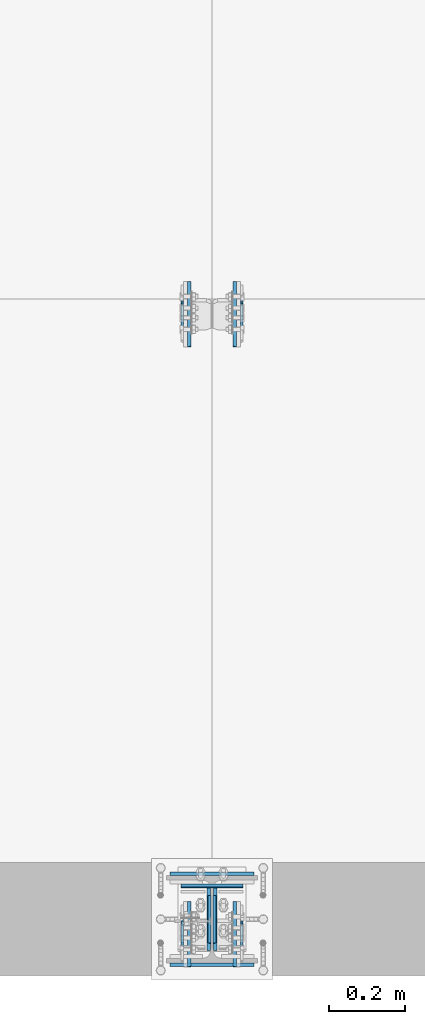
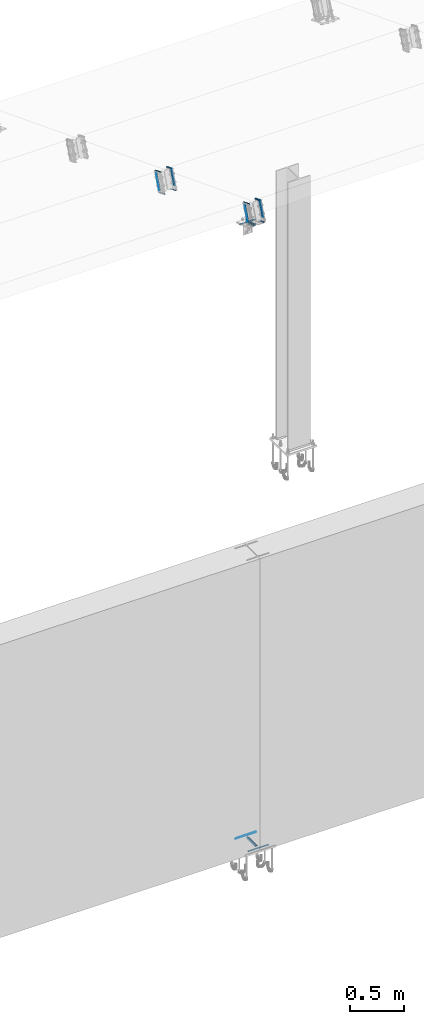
# One storey, part 11 of 72: 38 fasteners.
"""IFC4 building model written with IfcOpenShell, lengths in metres."""

from ifc_helpers import new_model, si_unit, frame, origin_with_axes, place, context, project, spatial, polyline, outline, extrude, type_object, element, save


model = new_model("IFC4")

# Units and contexts
model_context = context("Model", 3, precision=1e-05, world=origin_with_axes())
ifc_project = project(units=[si_unit("LENGTHUNIT", "METRE"), si_unit("AREAUNIT", "SQUARE_METRE"), si_unit("VOLUMEUNIT", "CUBIC_METRE"), si_unit("MASSUNIT", "GRAM", prefix="KILO"), si_unit("TIMEUNIT", "SECOND"), si_unit("PLANEANGLEUNIT", "RADIAN"), si_unit("SOLIDANGLEUNIT", "STERADIAN"), si_unit("THERMODYNAMICTEMPERATUREUNIT", "DEGREE_CELSIUS")], contexts=[model_context])

# Site, building, storey
placement_1 = place(None, origin_with_axes())
site = spatial("IfcSite", under=ifc_project, at=placement_1, Name="Italia", CompositionType="ELEMENT")
building = spatial("IfcBuilding", under=site, at=placement_1, Name="Uffici", CompositionType="ELEMENT")
storey = spatial("IfcBuildingStorey", under=building, at=placement_1, Name="Storey 0", CompositionType="ELEMENT", Elevation=0.0)

# Fasteners
fastener_type_1 = type_object("IfcFastenerType", Name="Collegamento -027_-026", PredefinedType="WELD")
placement_2 = place(placement_1, origin_with_axes())
fastener_1_placement = place(placement_2, origin_with_axes())
element("IfcFastener", 1, at=fastener_1_placement, inside=storey, type_object=fastener_type_1, Name="Collegamento -027_-026", context=model_context, shape_type="SweptSolid", body=[
    extrude(outline(polyline([(0.0, 0.0), (-0.00717354, 0.00695848), (0.0, 0.00695848), (0.0, 0.0)])), frame((3.13005, 1.63499, 6.58409), z_axis=(0.0, -0.361462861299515, -0.932386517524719), x_axis=(1.0, 0.0, 0.0)), (0.0, 0.0, 1.0), 0.1591),
])
fastener_type_2 = type_object("IfcFastenerType", Name="Collegamento -027_-026", PredefinedType="WELD")
fastener_2_placement = place(placement_2, origin_with_axes())
element("IfcFastener", 2, at=fastener_2_placement, inside=storey, type_object=fastener_type_2, Name="Collegamento -027_-026", context=model_context, shape_type="SweptSolid", body=[
    extrude(outline(polyline([(0.0, 0.0), (0.00717354, -0.00695837), (0.0, -0.00695837), (0.0, 0.0)])), frame((3.13005, 1.55938, 6.44277), z_axis=(0.0, 0.36146154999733, 0.932386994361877), x_axis=(-1.0, 0.0, 0.0)), (0.0, 0.0, 1.0), 0.1591),
])
fastener_type_3 = type_object("IfcFastenerType", Name="Collegamento -027_-026", PredefinedType="WELD")
fastener_3_placement = place(placement_2, origin_with_axes())
element("IfcFastener", 3, at=fastener_3_placement, inside=storey, type_object=fastener_type_3, Name="Collegamento -027_-026", context=model_context, shape_type="SweptSolid", body=[
    extrude(outline(polyline([(0.0, 0.0), (-0.00717354, 0.00695848), (0.0, 0.00695848), (0.0, 0.0)])), frame((3.13005, 1.63499, 6.58409), z_axis=(0.0, -0.361462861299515, -0.932386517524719), x_axis=(1.0, 0.0, 0.0)), (0.0, 0.0, 1.0), 0.1591),
])
fastener_type_4 = type_object("IfcFastenerType", Name="Collegamento -027_-026", PredefinedType="WELD")
fastener_4_placement = place(placement_2, origin_with_axes())
element("IfcFastener", 4, at=fastener_4_placement, inside=storey, type_object=fastener_type_4, Name="Collegamento -027_-026", context=model_context, shape_type="SweptSolid", body=[
    extrude(outline(polyline([(0.0, 0.0), (0.00717354, -0.00695837), (0.0, -0.00695837), (0.0, 0.0)])), frame((3.13005, 1.55938, 6.44277), z_axis=(0.0, 0.36146154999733, 0.932386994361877), x_axis=(-1.0, 0.0, 0.0)), (0.0, 0.0, 1.0), 0.1591),
])
fastener_type_5 = type_object("IfcFastenerType", Name="Collegamento -027_-026", PredefinedType="WELD")
fastener_5_placement = place(placement_2, origin_with_axes())
element("IfcFastener", 5, at=fastener_5_placement, inside=storey, type_object=fastener_type_5, Name="Collegamento -027_-026", context=model_context, shape_type="SweptSolid", body=[
    extrude(outline(polyline([(0.0, 0.0), (0.00937343, -0.00909233), (0.0, -0.00909233), (0.0, 0.0)])), frame((3.15005, 1.51041, 6.42806), z_axis=(0.0, 0.932386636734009, -0.361462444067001), x_axis=(-1.0, 0.0, 0.0)), (0.0, 0.0, 1.0), 0.1001),
])
fastener_type_6 = type_object("IfcFastenerType", Name="Collegamento -027_-026", PredefinedType="WELD")
fastener_6_placement = place(placement_2, origin_with_axes())
element("IfcFastener", 6, at=fastener_6_placement, inside=storey, type_object=fastener_type_6, Name="Collegamento -027_-026", context=model_context, shape_type="SweptSolid", body=[
    extrude(outline(polyline([(0.0, 0.0), (-0.00937343, 0.00909185), (0.0, 0.00909185), (0.0, 0.0)])), frame((3.15005, 1.67673, 6.58014), z_axis=(0.0, -0.932386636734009, 0.361462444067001), x_axis=(1.0, 0.0, 0.0)), (0.0, 0.0, 1.0), 0.1001),
])
fastener_type_7 = type_object("IfcFastenerType", Name="Collegamento -027_-028", PredefinedType="WELD")
fastener_7_placement = place(placement_2, origin_with_axes())
element("IfcFastener", 7, at=fastener_7_placement, inside=storey, type_object=fastener_type_7, Name="Collegamento -027_-028", context=model_context, shape_type="SweptSolid", body=[
    extrude(outline(polyline([(0.0, 0.0), (-0.00717354, 0.00695825), (0.0, 0.00695825), (0.0, 0.0)])), frame((3.27995, 1.57748, 6.43575), z_axis=(0.0, 0.361462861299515, 0.932386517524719), x_axis=(-1.0, 0.0, 0.0)), (0.0, 0.0, 1.0), 0.1591),
])
fastener_type_8 = type_object("IfcFastenerType", Name="Collegamento -027_-028", PredefinedType="WELD")
fastener_8_placement = place(placement_2, origin_with_axes())
element("IfcFastener", 8, at=fastener_8_placement, inside=storey, type_object=fastener_type_8, Name="Collegamento -027_-028", context=model_context, shape_type="SweptSolid", body=[
    extrude(outline(polyline([(0.0, 0.0), (0.00717354, -0.00695813), (0.0, -0.00695813), (0.0, 0.0)])), frame((3.27995, 1.61689, 6.59111), z_axis=(0.0, -0.36146154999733, -0.932386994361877), x_axis=(1.0, 0.0, 0.0)), (0.0, 0.0, 1.0), 0.1591),
])
fastener_type_9 = type_object("IfcFastenerType", Name="Collegamento -027_-028", PredefinedType="WELD")
fastener_9_placement = place(placement_2, origin_with_axes())
element("IfcFastener", 9, at=fastener_9_placement, inside=storey, type_object=fastener_type_9, Name="Collegamento -027_-028", context=model_context, shape_type="SweptSolid", body=[
    extrude(outline(polyline([(0.0, 0.0), (-0.00717354, 0.00695825), (0.0, 0.00695825), (0.0, 0.0)])), frame((3.27995, 1.57748, 6.43575), z_axis=(0.0, 0.361462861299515, 0.932386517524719), x_axis=(-1.0, 0.0, 0.0)), (0.0, 0.0, 1.0), 0.1591),
])
fastener_type_10 = type_object("IfcFastenerType", Name="Collegamento -027_-028", PredefinedType="WELD")
fastener_10_placement = place(placement_2, origin_with_axes())
element("IfcFastener", 10, at=fastener_10_placement, inside=storey, type_object=fastener_type_10, Name="Collegamento -027_-028", context=model_context, shape_type="SweptSolid", body=[
    extrude(outline(polyline([(0.0, 0.0), (0.00717354, -0.00695813), (0.0, -0.00695813), (0.0, 0.0)])), frame((3.27995, 1.61689, 6.59111), z_axis=(0.0, -0.36146154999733, -0.932386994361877), x_axis=(1.0, 0.0, 0.0)), (0.0, 0.0, 1.0), 0.1591),
])
fastener_type_11 = type_object("IfcFastenerType", Name="Collegamento -027_-028", PredefinedType="WELD")
fastener_11_placement = place(placement_2, origin_with_axes())
element("IfcFastener", 11, at=fastener_11_placement, inside=storey, type_object=fastener_type_11, Name="Collegamento -027_-028", context=model_context, shape_type="SweptSolid", body=[
    extrude(outline(polyline([(0.0, 0.0), (0.00937343, -0.00909233), (0.0, -0.00909233), (0.0, 0.0)])), frame((3.25995, 1.60375, 6.39188), z_axis=(0.0, -0.932386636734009, 0.361462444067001), x_axis=(1.0, 0.0, 0.0)), (0.0, 0.0, 1.0), 0.1001),
])
fastener_type_12 = type_object("IfcFastenerType", Name="Collegamento -027_-028", PredefinedType="WELD")
fastener_12_placement = place(placement_2, origin_with_axes())
element("IfcFastener", 12, at=fastener_12_placement, inside=storey, type_object=fastener_type_12, Name="Collegamento -027_-028", context=model_context, shape_type="SweptSolid", body=[
    extrude(outline(polyline([(0.0, 0.0), (-0.00937343, 0.00909233), (0.0, 0.00909233), (0.0, 0.0)])), frame((3.25995, 1.5834, 6.61633), z_axis=(0.0, 0.932386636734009, -0.361462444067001), x_axis=(-1.0, 0.0, 0.0)), (0.0, 0.0, 1.0), 0.1001),
])
fastener_type_13 = type_object("IfcFastenerType", Name="Collegamenti 0001_0101 0002_0102 0003_0103 0004_0104 0005_0105 0011_0111 0012_0112 0013_0113 0014_0114 0015_0115", PredefinedType="WELD")
fastener_13_placement = place(placement_2, origin_with_axes())
element("IfcFastener", 13, at=fastener_13_placement, inside=storey, type_object=fastener_type_13, Name="Collegamenti 0001_0101 0002_0102 0003_0103 0004_0104 0005_0105 0011_0111 0012_0112 0013_0113 0014_0114 0015_0115", context=model_context, shape_type="SweptSolid", body=[
    extrude(outline(polyline([(0.0, 0.0), (0.00986816, 0.0101734), (0.00986816, 0.0), (0.0, 0.0)])), frame((3.31505, 0.124818, 0.01995), z_axis=(-1.0, 6.7701798e-08, 0.0), x_axis=(-6.7701798e-08, -1.0, 0.0)), (0.0, 0.0, 1.0), 0.2201),
])
fastener_type_14 = type_object("IfcFastenerType", Name="Collegamenti 0001_0101 0002_0102 0003_0103 0004_0104 0005_0105 0011_0111 0012_0112 0013_0113 0014_0114 0015_0115", PredefinedType="WELD")
fastener_14_placement = place(placement_2, origin_with_axes())
element("IfcFastener", 14, at=fastener_14_placement, inside=storey, type_object=fastener_type_14, Name="Collegamenti 0001_0101 0002_0102 0003_0103 0004_0104 0005_0105 0011_0111 0012_0112 0013_0113 0014_0114 0015_0115", context=model_context, shape_type="SweptSolid", body=[
    extrude(outline(polyline([(0.0, 0.0), (0.00986816, 0.0101734), (0.00986816, 0.0), (0.0, 0.0)])), frame((3.09495, -0.124818, 0.01995), z_axis=(1.0, -6.7701798e-08, 0.0), x_axis=(6.7701798e-08, 1.0, 0.0)), (0.0, 0.0, 1.0), 0.2201),
])
fastener_type_15 = type_object("IfcFastenerType", Name="Collegamenti 0001_0101 0002_0102 0003_0103 0004_0104 0005_0105 0011_0111 0012_0112 0013_0113 0014_0114 0015_0115", PredefinedType="WELD")
fastener_15_placement = place(placement_2, origin_with_axes())
element("IfcFastener", 15, at=fastener_15_placement, inside=storey, type_object=fastener_type_15, Name="Collegamenti 0001_0101 0002_0102 0003_0103 0004_0104 0005_0105 0011_0111 0012_0112 0013_0113 0014_0114 0015_0115", context=model_context, shape_type="SweptSolid", body=[
    extrude(outline(polyline([(0.0, 0.0), (0.00986814, 0.0101734), (0.00986814, 0.0), (0.0, 0.0)])), frame((3.21857, -0.08205, 0.01995), z_axis=(0.0, 1.0, 0.0), x_axis=(-1.0, 0.0, 0.0)), (0.0, 0.0, 1.0), 0.1641),
])
fastener_type_16 = type_object("IfcFastenerType", Name="Collegamenti 0001_0101 0002_0102 0003_0103 0004_0104 0005_0105 0011_0111 0012_0112 0013_0113 0014_0114 0015_0115", PredefinedType="WELD")
fastener_16_placement = place(placement_2, origin_with_axes())
element("IfcFastener", 16, at=fastener_16_placement, inside=storey, type_object=fastener_type_16, Name="Collegamenti 0001_0101 0002_0102 0003_0103 0004_0104 0005_0105 0011_0111 0012_0112 0013_0113 0014_0114 0015_0115", context=model_context, shape_type="SweptSolid", body=[
    extrude(outline(polyline([(0.0, 0.0), (0.00986814, 0.0101734), (0.00986814, 0.0), (0.0, 0.0)])), frame((3.19143, 0.08205, 0.01995), z_axis=(0.0, -1.0, 0.0), x_axis=(1.0, 0.0, 0.0)), (0.0, 0.0, 1.0), 0.1641),
])
fastener_type_17 = type_object("IfcFastenerType", Name="Collegamenti 0001_0101 0002_0102 0003_0103 0004_0104 0005_0105 0011_0111 0012_0112 0013_0113 0014_0114 0015_0115", PredefinedType="WELD")
fastener_17_placement = place(placement_2, origin_with_axes())
element("IfcFastener", 17, at=fastener_17_placement, inside=storey, type_object=fastener_type_17, Name="Collegamenti 0001_0101 0002_0102 0003_0103 0004_0104 0005_0105 0011_0111 0012_0112 0013_0113 0014_0114 0015_0115", context=model_context, shape_type="SweptSolid", body=[
    extrude(outline(polyline([(0.0, 0.0), (0.00986816, 0.0101734), (0.00986816, 0.0), (0.0, 0.0)])), frame((3.31505, 0.124818, 0.01995), z_axis=(-1.0, 6.7701798e-08, 0.0), x_axis=(-6.7701798e-08, -1.0, 0.0)), (0.0, 0.0, 1.0), 0.2201),
])
fastener_type_18 = type_object("IfcFastenerType", Name="Collegamenti 0001_0101 0002_0102 0003_0103 0004_0104 0005_0105 0011_0111 0012_0112 0013_0113 0014_0114 0015_0115", PredefinedType="WELD")
fastener_18_placement = place(placement_2, origin_with_axes())
element("IfcFastener", 18, at=fastener_18_placement, inside=storey, type_object=fastener_type_18, Name="Collegamenti 0001_0101 0002_0102 0003_0103 0004_0104 0005_0105 0011_0111 0012_0112 0013_0113 0014_0114 0015_0115", context=model_context, shape_type="SweptSolid", body=[
    extrude(outline(polyline([(0.0, 0.0), (0.00986816, 0.0101734), (0.00986816, 0.0), (0.0, 0.0)])), frame((3.09495, -0.124818, 0.01995), z_axis=(1.0, -6.7701798e-08, 0.0), x_axis=(6.7701798e-08, 1.0, 0.0)), (0.0, 0.0, 1.0), 0.2201),
])
fastener_type_19 = type_object("IfcFastenerType", Name="Collegamenti 0001_0101 0002_0102 0003_0103 0004_0104 0005_0105 0011_0111 0012_0112 0013_0113 0014_0114 0015_0115", PredefinedType="WELD")
fastener_19_placement = place(placement_2, origin_with_axes())
element("IfcFastener", 19, at=fastener_19_placement, inside=storey, type_object=fastener_type_19, Name="Collegamenti 0001_0101 0002_0102 0003_0103 0004_0104 0005_0105 0011_0111 0012_0112 0013_0113 0014_0114 0015_0115", context=model_context, shape_type="SweptSolid", body=[
    extrude(outline(polyline([(0.0, 0.0), (0.00986814, 0.0101734), (0.00986814, 0.0), (0.0, 0.0)])), frame((3.21857, -0.08205, 0.01995), z_axis=(0.0, 1.0, 0.0), x_axis=(-1.0, 0.0, 0.0)), (0.0, 0.0, 1.0), 0.1641),
])
fastener_type_20 = type_object("IfcFastenerType", Name="Collegamenti 0001_0101 0002_0102 0003_0103 0004_0104 0005_0105 0011_0111 0012_0112 0013_0113 0014_0114 0015_0115", PredefinedType="WELD")
fastener_20_placement = place(placement_2, origin_with_axes())
element("IfcFastener", 20, at=fastener_20_placement, inside=storey, type_object=fastener_type_20, Name="Collegamenti 0001_0101 0002_0102 0003_0103 0004_0104 0005_0105 0011_0111 0012_0112 0013_0113 0014_0114 0015_0115", context=model_context, shape_type="SweptSolid", body=[
    extrude(outline(polyline([(0.0, 0.0), (0.00986814, 0.0101734), (0.00986814, 0.0), (0.0, 0.0)])), frame((3.19143, 0.08205, 0.01995), z_axis=(0.0, -1.0, 0.0), x_axis=(1.0, 0.0, 0.0)), (0.0, 0.0, 1.0), 0.1641),
])
fastener_type_21 = type_object("IfcFastenerType", Name="Collegamento 0202_0102", PredefinedType="WELD")
fastener_21_placement = place(placement_2, origin_with_axes())
element("IfcFastener", 21, at=fastener_21_placement, inside=storey, type_object=fastener_type_21, Name="Collegamento 0202_0102", context=model_context, shape_type="SweptSolid", body=[
    extrude(outline(polyline([(0.0, 0.0), (-0.0103468, -0.00475407), (-0.00739191, 0.00286627), (0.0, 0.0)])), frame((3.12295, 0.0928635, 6.952), z_axis=(1.0, 0.0, 0.0), x_axis=(0.0, 1.0, 0.0)), (0.0, 0.0, 1.0), 0.1641),
])
fastener_type_22 = type_object("IfcFastenerType", Name="Collegamento 0202_0102", PredefinedType="WELD")
fastener_22_placement = place(placement_2, origin_with_axes())
element("IfcFastener", 22, at=fastener_22_placement, inside=storey, type_object=fastener_type_22, Name="Collegamento 0202_0102", context=model_context, shape_type="SweptSolid", body=[
    extrude(outline(polyline([(0.0, 0.0), (-0.00792813, -0.00817299), (-0.00792813, 0.0), (0.0, 0.0)])), frame((3.21588, 0.0620793, 6.96393), z_axis=(0.0, -0.932361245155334, 0.361528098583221), x_axis=(1.0, 0.0, 0.0)), (0.0, 0.0, 1.0), 0.133127),
])
fastener_type_23 = type_object("IfcFastenerType", Name="Collegamento 0202_0102", PredefinedType="WELD")
fastener_23_placement = place(placement_2, origin_with_axes())
element("IfcFastener", 23, at=fastener_23_placement, inside=storey, type_object=fastener_type_23, Name="Collegamento 0202_0102", context=model_context, shape_type="SweptSolid", body=[
    extrude(outline(polyline([(0.0, 0.0), (-0.00792813, -0.00817299), (-0.00792813, 0.0), (0.0, 0.0)])), frame((3.19412, -0.062043, 7.01206), z_axis=(0.0, 0.932361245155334, -0.361528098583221), x_axis=(-1.0, 0.0, 0.0)), (0.0, 0.0, 1.0), 0.133127),
])
fastener_type_24 = type_object("IfcFastenerType", Name="Collegamento 0202_0102", PredefinedType="WELD")
fastener_24_placement = place(placement_2, origin_with_axes())
element("IfcFastener", 24, at=fastener_24_placement, inside=storey, type_object=fastener_type_24, Name="Collegamento 0202_0102", context=model_context, shape_type="SweptSolid", body=[
    extrude(outline(polyline([(0.0, 0.0), (-0.0103468, -0.00475407), (-0.00739191, 0.00286627), (0.0, 0.0)])), frame((3.12295, 0.0928635, 6.952), z_axis=(1.0, 0.0, 0.0), x_axis=(0.0, 1.0, 0.0)), (0.0, 0.0, 1.0), 0.1641),
])
fastener_type_25 = type_object("IfcFastenerType", Name="Collegamento 0202_0102", PredefinedType="WELD")
fastener_25_placement = place(placement_2, origin_with_axes())
element("IfcFastener", 25, at=fastener_25_placement, inside=storey, type_object=fastener_type_25, Name="Collegamento 0202_0102", context=model_context, shape_type="SweptSolid", body=[
    extrude(outline(polyline([(0.0, 0.0), (-0.00792813, -0.00817299), (-0.00792813, 0.0), (0.0, 0.0)])), frame((3.21588, 0.0620793, 6.96393), z_axis=(0.0, -0.932361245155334, 0.361528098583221), x_axis=(1.0, 0.0, 0.0)), (0.0, 0.0, 1.0), 0.133127),
])
fastener_type_26 = type_object("IfcFastenerType", Name="Collegamento 0202_0102", PredefinedType="WELD")
fastener_26_placement = place(placement_2, origin_with_axes())
element("IfcFastener", 26, at=fastener_26_placement, inside=storey, type_object=fastener_type_26, Name="Collegamento 0202_0102", context=model_context, shape_type="SweptSolid", body=[
    extrude(outline(polyline([(0.0, 0.0), (-0.00792813, -0.00817299), (-0.00792813, 0.0), (0.0, 0.0)])), frame((3.19412, -0.062043, 7.01206), z_axis=(0.0, 0.932361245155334, -0.361528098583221), x_axis=(-1.0, 0.0, 0.0)), (0.0, 0.0, 1.0), 0.133127),
])
fastener_type_27 = type_object("IfcFastenerType", Name="Collegamento 0202_0201", PredefinedType="WELD")
fastener_27_placement = place(placement_2, origin_with_axes())
element("IfcFastener", 27, at=fastener_27_placement, inside=storey, type_object=fastener_type_27, Name="Collegamento 0202_0201", context=model_context, shape_type="SweptSolid", body=[
    extrude(outline(polyline([(0.0, 0.0), (-0.00717354, 0.00695801), (0.0, 0.00695801), (0.0, 0.0)])), frame((3.13005, 0.00165956, 7.21742), z_axis=(0.0, -0.361462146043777, -0.932386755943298), x_axis=(1.0, 0.0, 0.0)), (0.0, 0.0, 1.0), 0.1591),
])
fastener_type_28 = type_object("IfcFastenerType", Name="Collegamento 0202_0201", PredefinedType="WELD")
fastener_28_placement = place(placement_2, origin_with_axes())
element("IfcFastener", 28, at=fastener_28_placement, inside=storey, type_object=fastener_type_28, Name="Collegamento 0202_0201", context=model_context, shape_type="SweptSolid", body=[
    extrude(outline(polyline([(0.0, 0.0), (0.00717354, -0.00695825), (0.0, -0.00695825), (0.0, 0.0)])), frame((3.13005, -0.0739523, 7.0761), z_axis=(0.0, 0.36146005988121, 0.932387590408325), x_axis=(-1.0, 0.0, 0.0)), (0.0, 0.0, 1.0), 0.1591),
])
fastener_type_29 = type_object("IfcFastenerType", Name="Collegamento 0202_0201", PredefinedType="WELD")
fastener_29_placement = place(placement_2, origin_with_axes())
element("IfcFastener", 29, at=fastener_29_placement, inside=storey, type_object=fastener_type_29, Name="Collegamento 0202_0201", context=model_context, shape_type="SweptSolid", body=[
    extrude(outline(polyline([(0.0, 0.0), (-0.00717354, 0.00695801), (0.0, 0.00695801), (0.0, 0.0)])), frame((3.13005, 0.00165956, 7.21742), z_axis=(0.0, -0.361462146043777, -0.932386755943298), x_axis=(1.0, 0.0, 0.0)), (0.0, 0.0, 1.0), 0.1591),
])
fastener_type_30 = type_object("IfcFastenerType", Name="Collegamento 0202_0201", PredefinedType="WELD")
fastener_30_placement = place(placement_2, origin_with_axes())
element("IfcFastener", 30, at=fastener_30_placement, inside=storey, type_object=fastener_type_30, Name="Collegamento 0202_0201", context=model_context, shape_type="SweptSolid", body=[
    extrude(outline(polyline([(0.0, 0.0), (0.00717354, -0.00695825), (0.0, -0.00695825), (0.0, 0.0)])), frame((3.13005, -0.0739523, 7.0761), z_axis=(0.0, 0.36146005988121, 0.932387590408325), x_axis=(-1.0, 0.0, 0.0)), (0.0, 0.0, 1.0), 0.1591),
])
fastener_type_31 = type_object("IfcFastenerType", Name="Collegamento 0202_0201", PredefinedType="WELD")
fastener_31_placement = place(placement_2, origin_with_axes())
element("IfcFastener", 31, at=fastener_31_placement, inside=storey, type_object=fastener_type_31, Name="Collegamento 0202_0201", context=model_context, shape_type="SweptSolid", body=[
    extrude(outline(polyline([(0.0, 0.0), (0.00937343, -0.00909233), (0.0, -0.00909233), (0.0, 0.0)])), frame((3.15005, -0.122918, 7.0614), z_axis=(0.0, 0.932386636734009, -0.361462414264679), x_axis=(-1.0, 0.0, 0.0)), (0.0, 0.0, 1.0), 0.1001),
])
fastener_type_32 = type_object("IfcFastenerType", Name="Collegamento 0202_0201", PredefinedType="WELD")
fastener_32_placement = place(placement_2, origin_with_axes())
element("IfcFastener", 32, at=fastener_32_placement, inside=storey, type_object=fastener_type_32, Name="Collegamento 0202_0201", context=model_context, shape_type="SweptSolid", body=[
    extrude(outline(polyline([(0.0, 0.0), (-0.00937343, 0.00909233), (0.0, 0.00909233), (0.0, 0.0)])), frame((3.15005, 0.0433989, 7.21348), z_axis=(0.0, -0.932386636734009, 0.361462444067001), x_axis=(1.0, 0.0, 0.0)), (0.0, 0.0, 1.0), 0.1001),
])
fastener_type_33 = type_object("IfcFastenerType", Name="Collegamento 0202_0203", PredefinedType="WELD")
fastener_33_placement = place(placement_2, origin_with_axes())
element("IfcFastener", 33, at=fastener_33_placement, inside=storey, type_object=fastener_type_33, Name="Collegamento 0202_0203", context=model_context, shape_type="SweptSolid", body=[
    extrude(outline(polyline([(0.0, 0.0), (-0.00717354, 0.00695801), (0.0, 0.00695801), (0.0, 0.0)])), frame((3.27995, -0.055849, 7.06908), z_axis=(0.0, 0.3614621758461, 0.932386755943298), x_axis=(-1.0, 0.0, 0.0)), (0.0, 0.0, 1.0), 0.1591),
])
fastener_type_34 = type_object("IfcFastenerType", Name="Collegamento 0202_0203", PredefinedType="WELD")
fastener_34_placement = place(placement_2, origin_with_axes())
element("IfcFastener", 34, at=fastener_34_placement, inside=storey, type_object=fastener_type_34, Name="Collegamento 0202_0203", context=model_context, shape_type="SweptSolid", body=[
    extrude(outline(polyline([(0.0, 0.0), (0.00717354, -0.00695825), (0.0, -0.00695825), (0.0, 0.0)])), frame((3.27995, -0.0164439, 7.22444), z_axis=(0.0, -0.361460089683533, -0.932387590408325), x_axis=(1.0, 0.0, 0.0)), (0.0, 0.0, 1.0), 0.1591),
])
fastener_type_35 = type_object("IfcFastenerType", Name="Collegamento 0202_0203", PredefinedType="WELD")
fastener_35_placement = place(placement_2, origin_with_axes())
element("IfcFastener", 35, at=fastener_35_placement, inside=storey, type_object=fastener_type_35, Name="Collegamento 0202_0203", context=model_context, shape_type="SweptSolid", body=[
    extrude(outline(polyline([(0.0, 0.0), (-0.00717354, 0.00695801), (0.0, 0.00695801), (0.0, 0.0)])), frame((3.27995, -0.055849, 7.06908), z_axis=(0.0, 0.3614621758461, 0.932386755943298), x_axis=(-1.0, 0.0, 0.0)), (0.0, 0.0, 1.0), 0.1591),
])
fastener_type_36 = type_object("IfcFastenerType", Name="Collegamento 0202_0203", PredefinedType="WELD")
fastener_36_placement = place(placement_2, origin_with_axes())
element("IfcFastener", 36, at=fastener_36_placement, inside=storey, type_object=fastener_type_36, Name="Collegamento 0202_0203", context=model_context, shape_type="SweptSolid", body=[
    extrude(outline(polyline([(0.0, 0.0), (0.00717354, -0.00695825), (0.0, -0.00695825), (0.0, 0.0)])), frame((3.27995, -0.0164439, 7.22444), z_axis=(0.0, -0.361460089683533, -0.932387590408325), x_axis=(1.0, 0.0, 0.0)), (0.0, 0.0, 1.0), 0.1591),
])
fastener_type_37 = type_object("IfcFastenerType", Name="Collegamento 0202_0203", PredefinedType="WELD")
fastener_37_placement = place(placement_2, origin_with_axes())
element("IfcFastener", 37, at=fastener_37_placement, inside=storey, type_object=fastener_type_37, Name="Collegamento 0202_0203", context=model_context, shape_type="SweptSolid", body=[
    extrude(outline(polyline([(0.0, 0.0), (0.00937343, -0.00909233), (0.0, -0.00909233), (0.0, 0.0)])), frame((3.25995, -0.0295861, 7.02522), z_axis=(0.0, -0.932386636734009, 0.361462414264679), x_axis=(1.0, 0.0, 0.0)), (0.0, 0.0, 1.0), 0.1001),
])
fastener_type_38 = type_object("IfcFastenerType", Name="Collegamento 0202_0203", PredefinedType="WELD")
fastener_38_placement = place(placement_2, origin_with_axes())
element("IfcFastener", 38, at=fastener_38_placement, inside=storey, type_object=fastener_type_38, Name="Collegamento 0202_0203", context=model_context, shape_type="SweptSolid", body=[
    extrude(outline(polyline([(0.0, 0.0), (-0.00937343, 0.00909233), (0.0, 0.00909233), (0.0, 0.0)])), frame((3.25995, -0.049933, 7.24966), z_axis=(0.0, 0.932386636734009, -0.361462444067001), x_axis=(-1.0, 0.0, 0.0)), (0.0, 0.0, 1.0), 0.1001),
])

save(model, "model.ifc")
